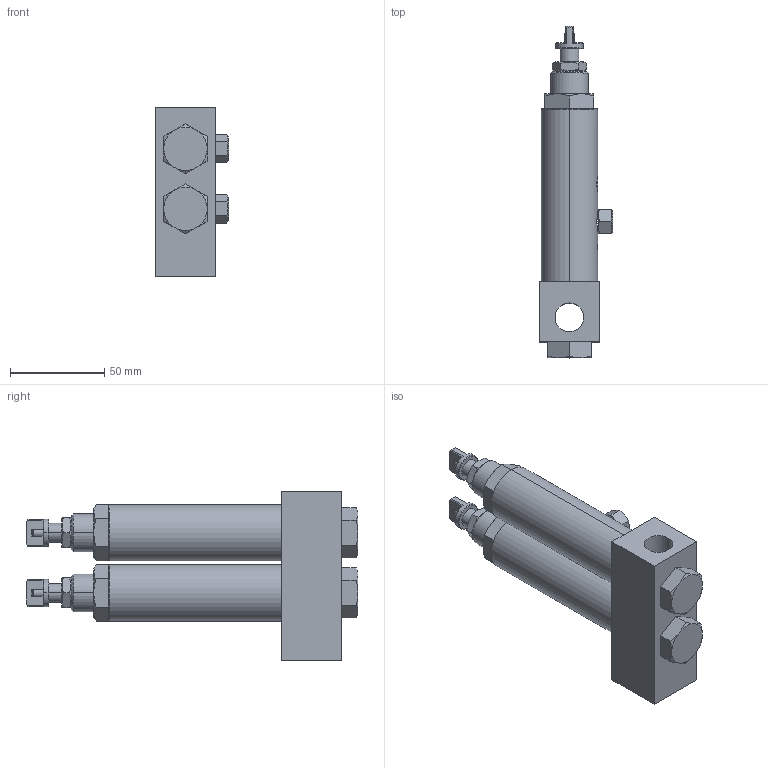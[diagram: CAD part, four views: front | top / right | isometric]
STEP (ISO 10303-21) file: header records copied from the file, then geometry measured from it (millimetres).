
FILE_DESCRIPTION (( 'STEP AP203' ), '1' );
FILE_NAME ('ASL-02.STEP', '2020-04-18T03:37:03', ( '个人用户' ), ( '微软中国' ), 'SwSTEP 2.0', 'SolidWorks 2018', '' );
FILE_SCHEMA (( 'CONFIG_CONTROL_DESIGN' ));
Length unit declared in the file: millimetre
Products named in the file (1): ASL-02
Bounding box: 39 x 176.5 x 90 mm (x, y, z)
Surface area: 45442.1 mm2 (no closed solid volume)
Topology: 0 solids, 22 shells, 231 faces, 634 edges, 422 vertices
Faces by surface type: plane 119, cone 66, cylinder 38, torus 4, sphere 4
Entity records: 8440 total; most frequent: CARTESIAN_POINT 2702, DIRECTION 1148, ORIENTED_EDGE 1124, EDGE_CURVE 624, AXIS2_PLACEMENT_3D 430, VERTEX_POINT 416, LINE 288, VECTOR 288
